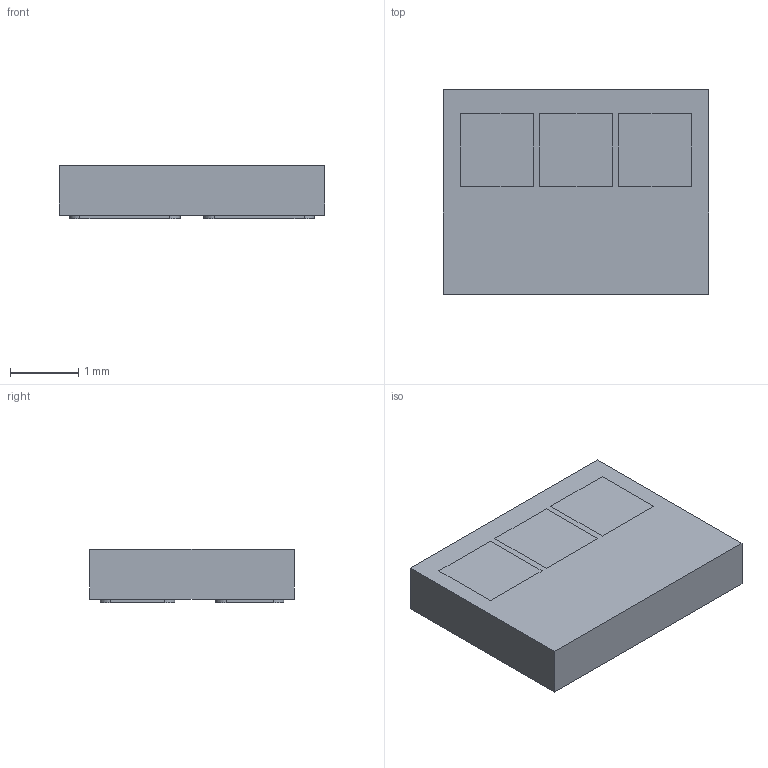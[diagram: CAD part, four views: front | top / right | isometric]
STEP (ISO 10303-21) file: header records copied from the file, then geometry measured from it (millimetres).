
FILE_DESCRIPTION (( 'STEP AP214' ), '1' );
FILE_NAME ('ASL3.STEP', '2024-01-24T18:43:22', ( '' ), ( '' ), 'SwSTEP 2.0', 'SolidWorks 2022', '' );
FILE_SCHEMA (( 'AUTOMOTIVE_DESIGN' ));
Length unit declared in the file: millimetre
Products named in the file (1): ASL3
Bounding box: 3.89 x 3 x 0.78 mm (x, y, z)
Volume: 8.9 mm3; surface area: 34.4 mm2
Topology: 1 solids, 1 shells, 48 faces, 129 edges, 90 vertices
Faces by surface type: plane 33, cylinder 15
Entity records: 2081 total; most frequent: CARTESIAN_POINT 268, ORIENTED_EDGE 258, DIRECTION 257, EDGE_CURVE 129, LINE 99, VECTOR 99, VERTEX_POINT 90, AXIS2_PLACEMENT_3D 79
